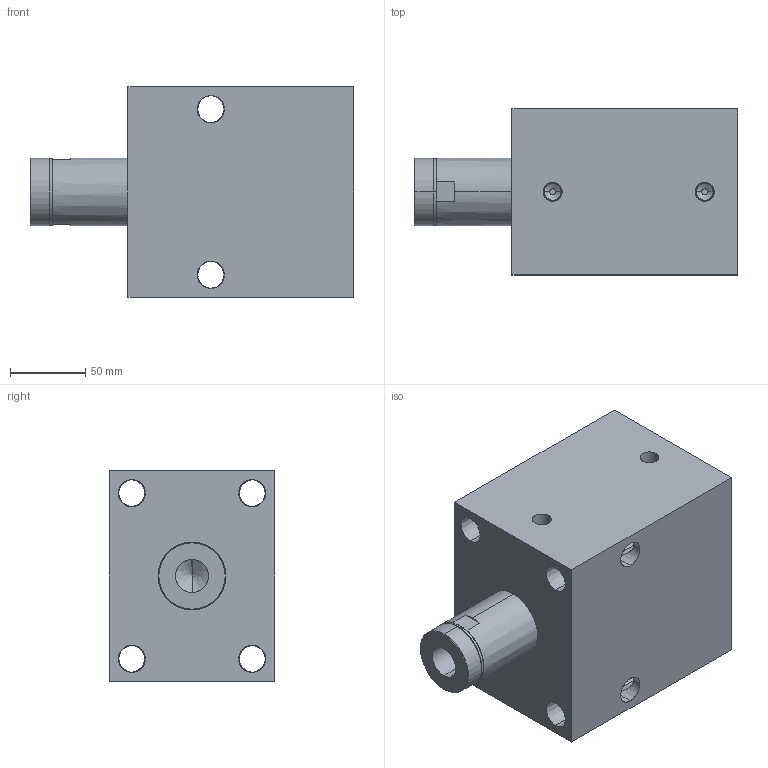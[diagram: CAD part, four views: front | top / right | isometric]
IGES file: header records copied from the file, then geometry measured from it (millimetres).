
Start section: SolidWorks IGES file using analytic representation for surfaces
Global section: file name: C:\Documents and Settings\rajib\Desktop\Rajib\BLOCK CYLINDER HYDRAULIC\0701-0704\IGS 0701-0708\0704.IGS; native system: SolidWorks 2007; preprocessor: SolidWorks 2007; author: rajib; date: 110121.160534; units: millimetre
Bounding box: 215 x 110 x 140 mm (x, y, z)
Surface area: 165833.9 mm2 (no closed solid volume)
Topology: 0 solids, 0 shells, 80 faces, 1904 edges, 1902 vertices
Faces by surface type: revolution 58, bspline 22
